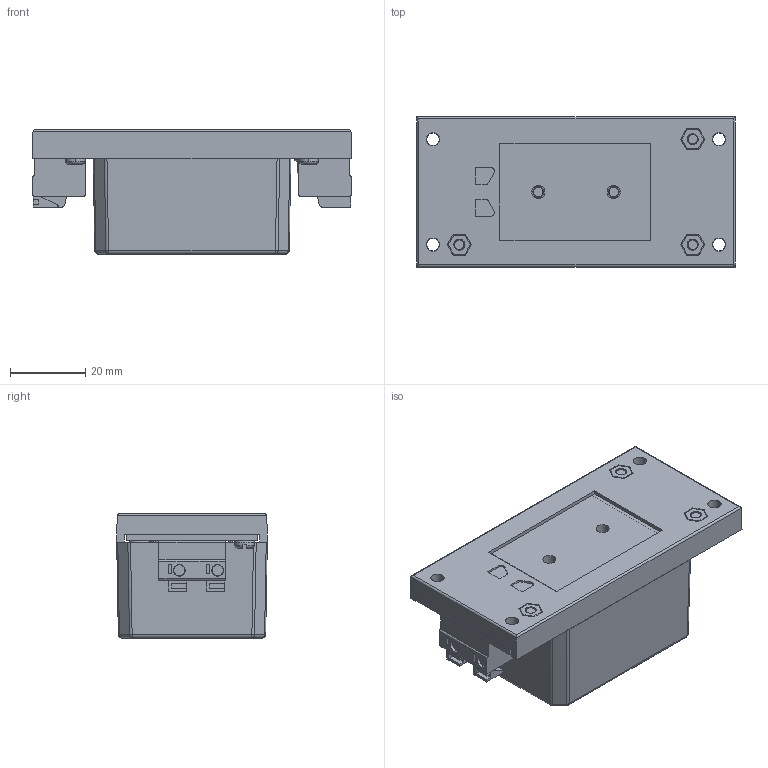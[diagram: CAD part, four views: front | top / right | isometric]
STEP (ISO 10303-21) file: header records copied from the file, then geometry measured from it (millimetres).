
FILE_DESCRIPTION (( 'STEP AP214' ), '1' );
FILE_NAME ('RACM30-SK_277_PMP_20221011.STEP', '2022-11-07T14:18:54', ( '' ), ( '' ), 'SwSTEP 2.0', 'SolidWorks 2020', '' );
FILE_SCHEMA (( 'AUTOMOTIVE_DESIGN' ));
Length unit declared in the file: inch
Products named in the file (2): RACM30-SK_277_PMP_20221011
Assembly tree (1 placements, depth 2):
  RACM30-SK_277_PMP_20221011
    RACM30-SK_277_PMP_20221011
Bounding box: 84.7 x 40 x 33 mm (x, y, z)
Volume: 47585.5 mm3; surface area: 51665.6 mm2
Topology: 46 solids, 52 shells, 1584 faces, 3928 edges, 2504 vertices
Faces by surface type: plane 794, cylinder 493, cone 99, bspline 96, torus 74, sphere 28
Entity records: 82458 total; most frequent: CARTESIAN_POINT 24038, ORIENTED_EDGE 7856, DIRECTION 7375, EDGE_CURVE 3928, AXIS2_PLACEMENT_3D 2527, VERTEX_POINT 2504, LINE 2321, VECTOR 2321
